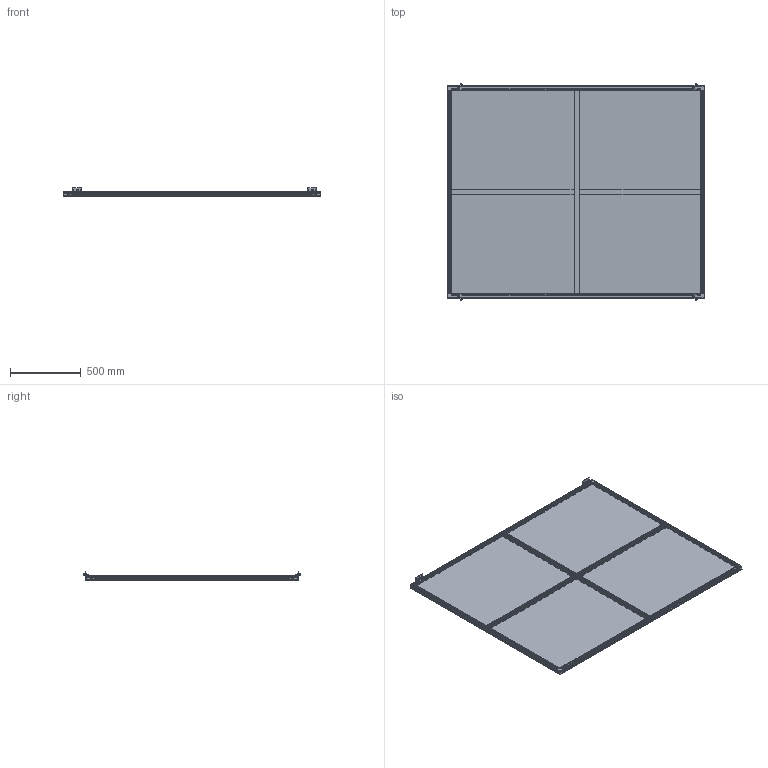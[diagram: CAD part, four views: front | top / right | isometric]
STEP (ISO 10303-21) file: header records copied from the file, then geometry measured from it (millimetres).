
FILE_DESCRIPTION(/* description */ (''),/* implementation_level */ '2;1');
FILE_NAME(/* name */ 'Z:\Marketing\fastline\Pannello H=2000.stp',/* time_stamp */ '2021-10-15T15:00:22+02:00',/* author */ ('mpistoia'),/* organization */ (''),/* preprocessor_version */ 'ST-DEVELOPER v17.2',/* originating_system */ 'Autodesk Inventor 2019',/* authorisation */ '');
FILE_SCHEMA (('AUTOMOTIVE_DESIGN { 1 0 10303 214 3 1 1 }'));
Products named in the file (1): Pannello H=2000
Bounding box: 1820 x 1534 x 58 mm (x, y, z)
Volume: 10097234.4 mm3; surface area: 7640034.6 mm2
Topology: 5 solids, 9 shells, 2093 faces, 5426 edges, 3494 vertices
Faces by surface type: plane 1259, cylinder 574, bspline 156, sphere 76, cone 20, torus 8
Full cylindrical faces by diameter (mm): 3.2 x6, 4.5 x6, 5 x8, 5.5 x4, 6 x8, 6.35 x4, 7.9 x16, 8 x8, 8.5 x4, 10 x4, 11 x6, 13 x8
Entity records: 254829 total; most frequent: CARTESIAN_POINT 203034, ORIENTED_EDGE 10828, DIRECTION 10560, EDGE_CURVE 5414, LINE 3668, VECTOR 3668, VERTEX_POINT 3490, AXIS2_PLACEMENT_3D 3446
